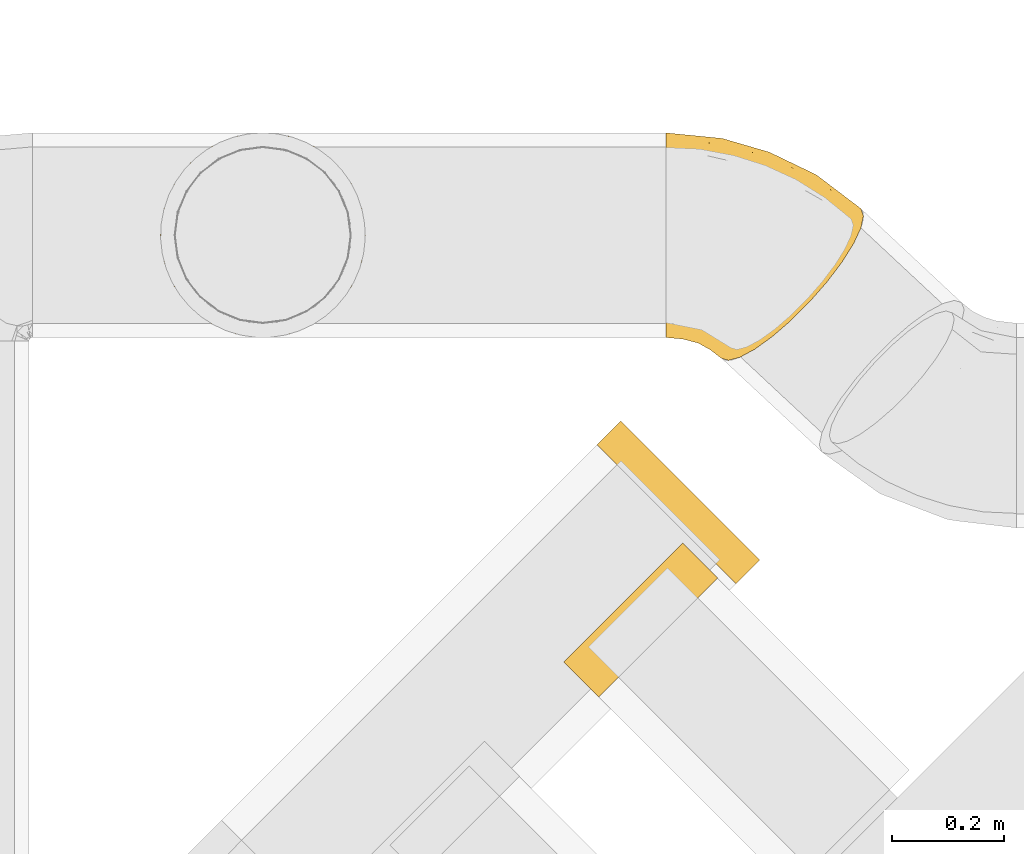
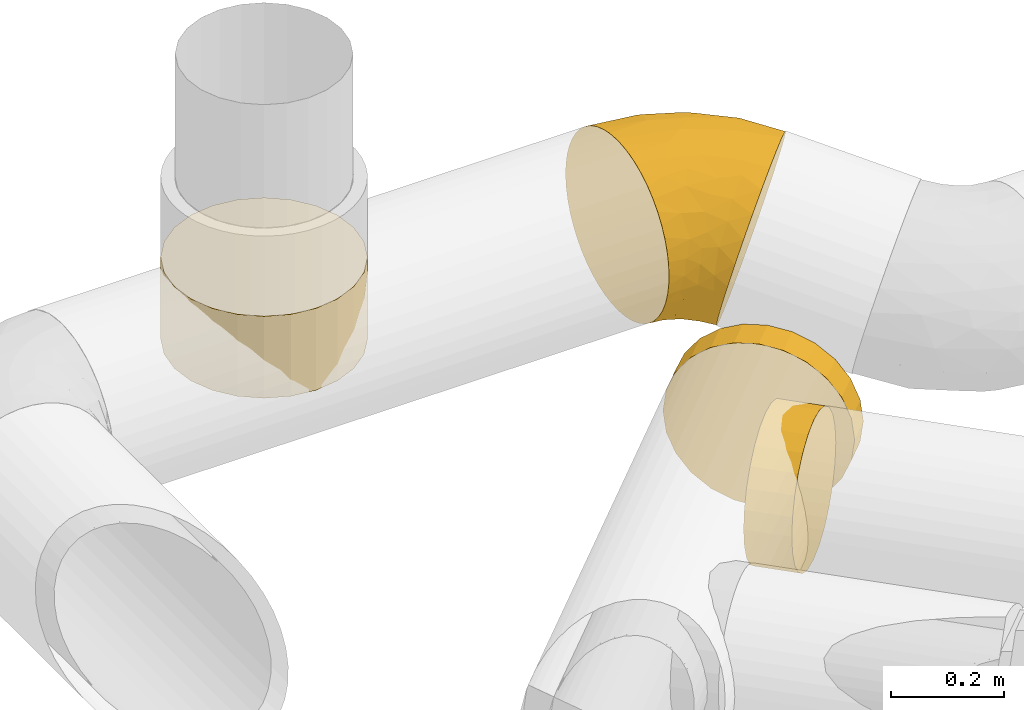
# One storey, part 4 of 12: 4 coverings.
"""IFC2X3 building model written with IfcOpenShell, lengths in millimetres."""

import ifcopenshell
import ifcopenshell.guid

model = None  # the IFC model being written
_history = None  # IfcOwnerHistory: only IFC2X3 demands one
_inside = {}  # id of a spatial element -> (the spatial element, [elements in it])
_under = {}  # id of a project, library or spatial element -> (it, [spatial elements below it])
_declared = {}  # id of a project -> (the project, [libraries it declares])
_typed = {}  # id of a type object -> (the type object, [elements of that type])
_made_of = {}  # id of a material, layer set ... -> (it, [elements and type objects made of it])


def new_model(schema):
    """Start an empty IFC model of exactly this schema.

    Asked for "IFC4X3", IfcOpenShell would pick the latest addendum, in which some entities
    have other attributes; the version numbers below select the first issue.
    IFC2X3 requires an IfcOwnerHistory on every rooted entity: one is made here for all.
    """
    global model, _history
    if schema == "IFC4X3":
        model = ifcopenshell.file(schema_version=(4, 3, 0, 0))
    else:
        model = ifcopenshell.file(schema=schema)
    _inside.clear()
    _under.clear()
    _declared.clear()
    _typed.clear()
    _made_of.clear()
    _history = None
    if model.schema == "IFC2X3":
        org = make("IfcOrganization", Name="unknown")
        user = make(
            "IfcPersonAndOrganization",
            ThePerson=make("IfcPerson", FamilyName="unknown"),
            TheOrganization=org,
        )
        app = make(
            "IfcApplication",
            ApplicationDeveloper=org,
            Version="unknown",
            ApplicationFullName="unknown",
            ApplicationIdentifier="unknown",
        )
        _history = make(
            "IfcOwnerHistory",
            OwningUser=user,
            OwningApplication=app,
            ChangeAction="ADDED",
            CreationDate=0,
        )
    return model


def make(cls, **values):
    """One entity of the class cls with the attributes given. An attribute that is None is left unset."""
    return model.create_entity(
        cls, **{name: value for name, value in values.items() if value is not None}
    )


def entity(cls, *values):
    """Any entity or typed value of the class cls, its attributes in the order of the schema. None: left unset."""
    e = model.create_entity(cls)
    for i, value in enumerate(values):
        if value is not None:
            e[i] = value
    return e


def rooted(cls, **values):
    """An entity with a GlobalId (a new one), such as an element, a storey or a relation."""
    return make(cls, GlobalId=ifcopenshell.guid.new(), OwnerHistory=_history, **values)


def si_unit(unit_type, name, prefix=None):
    """IfcSIUnit, for example si_unit("LENGTHUNIT", "METRE", prefix="MILLI")."""
    return make("IfcSIUnit", UnitType=unit_type, Prefix=prefix, Name=name)


def converted_unit(unit_type, name, factor, base, dimensions=None, offset=None):
    """IfcConversionBasedUnit, such as the inch: factor (a typed value) times the base unit."""
    return make(
        "IfcConversionBasedUnit"
        if offset is None
        else "IfcConversionBasedUnitWithOffset",
        ConversionOffset=offset,
        Dimensions=None
        if dimensions is None
        else entity("IfcDimensionalExponents", *dimensions),
        UnitType=unit_type,
        Name=name,
        ConversionFactor=make(
            "IfcMeasureWithUnit", ValueComponent=factor, UnitComponent=base
        ),
    )


def derived_unit(unit_type, elements):
    """IfcDerivedUnit: a product of units, each with its exponent."""
    return make(
        "IfcDerivedUnit",
        Elements=[
            make("IfcDerivedUnitElement", Unit=unit, Exponent=power)
            for unit, power in elements
        ],
        UnitType=unit_type,
    )


def assignment(units):
    """IfcUnitAssignment: the units of a project."""
    return None if units is None else make("IfcUnitAssignment", Units=units)


def point(xyz):
    """IfcCartesianPoint."""
    return None if xyz is None else make("IfcCartesianPoint", Coordinates=xyz)


def direction(xyz):
    """IfcDirection."""
    return None if xyz is None else make("IfcDirection", DirectionRatios=xyz)


def frame(location, z_axis=None, x_axis=None):
    """IfcAxis2Placement3D, a coordinate frame: its origin and axes. An axis left out is left unset."""
    return make(
        "IfcAxis2Placement3D",
        Location=point(location),
        Axis=direction(z_axis),
        RefDirection=direction(x_axis),
    )


def origin_with_axes():
    """The frame at (0, 0, 0) with the z axis (0, 0, 1) and the x axis (1, 0, 0) written out."""
    return frame((0.0, 0.0, 0.0), z_axis=(0.0, 0.0, 1.0), x_axis=(1.0, 0.0, 0.0))


def place(relative_to, where):
    """IfcLocalPlacement: puts the frame where relative to a parent placement (None: the world)."""
    return make(
        "IfcLocalPlacement", PlacementRelTo=relative_to, RelativePlacement=where
    )


def context(
    kind, dimensions, precision=None, world=None, true_north=None, identifier=None
):
    """IfcGeometricRepresentationContext, for example the 3D "Model" context."""
    return make(
        "IfcGeometricRepresentationContext",
        ContextIdentifier=identifier,
        ContextType=kind,
        CoordinateSpaceDimension=dimensions,
        Precision=precision,
        WorldCoordinateSystem=world,
        TrueNorth=true_north,
    )


def subcontext(parent, identifier, kind, view, scale=None):
    """IfcGeometricRepresentationSubContext, for example "Body" below "Model"."""
    return make(
        "IfcGeometricRepresentationSubContext",
        ContextIdentifier=identifier,
        ContextType=kind,
        ParentContext=parent,
        TargetScale=scale,
        TargetView=view,
    )


def project(units=None, contexts=None):
    """IfcProject with its units and contexts."""
    return rooted(
        "IfcProject",
        Name="project",
        RepresentationContexts=contexts,
        UnitsInContext=assignment(units),
    )


def spatial(cls, under=None, at=None, **own):
    """A site, building, storey or space (cls), placed at a placement, below another one or the project."""
    s = rooted(cls, ObjectPlacement=at, **own)
    if under is not None:
        _under.setdefault(under.id(), (under, []))[1].append(s)
    return s


def faces_of(points, faces, orient=None, outer=None):
    """IfcFace entities. A face is a list of loops; a loop is a list of indices into points, from 0.

    orient and outer hold one flag for each loop. By default every Orientation is true, the
    first loop of a face is its IfcFaceOuterBound and the others are IfcFaceBound.
    """
    made = []
    for i, loops in enumerate(faces):
        bounds = []
        for j, loop in enumerate(loops):
            is_outer = j == 0 if outer is None else outer[i][j]
            bounds.append(
                make(
                    "IfcFaceOuterBound" if is_outer else "IfcFaceBound",
                    Bound=make("IfcPolyLoop", Polygon=[points[k] for k in loop]),
                    Orientation=True if orient is None else orient[i][j],
                )
            )
        made.append(make("IfcFace", Bounds=bounds))
    return made


def open_shell(faces, orient=None, outer=None):
    """The faces of one IfcOpenShell. surface_model builds it on its shared points."""
    return ("IfcOpenShell", faces, orient, outer)


def surface_model(cls, points, shells):
    """IfcFaceBasedSurfaceModel or IfcShellBasedSurfaceModel (cls): surfaces that need not close."""
    shared = [point(p) for p in points]
    made = [make(c, CfsFaces=faces_of(shared, fs, o, b)) for c, fs, o, b in shells]
    if cls == "IfcFaceBasedSurfaceModel":
        return make(cls, FbsmFaces=made)
    return make(cls, SbsmBoundary=made)


def shape(context_of_items, identifier, shape_type, items):
    """IfcShapeRepresentation: the items that make up one representation, for example the "Body"."""
    return make(
        "IfcShapeRepresentation",
        ContextOfItems=context_of_items,
        RepresentationIdentifier=identifier,
        RepresentationType=shape_type,
        Items=items,
    )


def source(mapping_origin, context_of_items, identifier, shape_type, items):
    """IfcRepresentationMap: a shape defined once, which mapped items show again and again."""
    return make(
        "IfcRepresentationMap",
        MappingOrigin=mapping_origin,
        MappedRepresentation=shape(context_of_items, identifier, shape_type, items),
    )


def transform(
    local_origin,
    x_axis=None,
    y_axis=None,
    z_axis=None,
    scale=None,
    scale2=None,
    scale3=None,
    uniform=True,
):
    """IfcCartesianTransformationOperator3D, or its non-uniform kind. x_axis, y_axis, z_axis: its Axis1, 2, 3."""
    if uniform:
        return make(
            "IfcCartesianTransformationOperator3D",
            Axis1=direction(x_axis),
            Axis2=direction(y_axis),
            LocalOrigin=point(local_origin),
            Scale=scale,
            Axis3=direction(z_axis),
        )
    return make(
        "IfcCartesianTransformationOperator3DnonUniform",
        Axis1=direction(x_axis),
        Axis2=direction(y_axis),
        LocalOrigin=point(local_origin),
        Scale=scale,
        Axis3=direction(z_axis),
        Scale2=scale2,
        Scale3=scale3,
    )


def mapped(mapping_source, mapping_target):
    """IfcMappedItem: shows the shape of a source again, moved by a transform."""
    return make(
        "IfcMappedItem", MappingSource=mapping_source, MappingTarget=mapping_target
    )


def made_of(thing, what):
    """Note that an element or type object is made of a material, layer set ...; save() writes the relation."""
    if what is not None:
        _made_of.setdefault(what.id(), (what, []))[1].append(thing)
    return thing


def element(
    cls,
    number,
    at=None,
    inside=None,
    cuts=None,
    type_object=None,
    material=None,
    context=None,
    identifier="Body",
    shape_type=None,
    held_by="IfcProductDefinitionShape",
    body=None,
    shapes=None,
    **own,
):
    """One element of the class cls, such as IfcWall. Its Tag is "e" and its number.

    at: its placement. inside: the storey or other place that contains it. cuts: it is an
    opening in that element (IfcRelVoidsElement). A single representation is given by context,
    identifier, shape_type and body (its items); several are given by shapes. held_by: the class
    of the entity that holds the representations. save() writes the other relations.
    """
    e = rooted(cls, Tag="e%d" % number, ObjectPlacement=at, **own)
    if body is not None:
        shapes = [shape(context, identifier, shape_type, body)]
    if shapes is not None:
        e.Representation = make(held_by, Representations=shapes)
    if inside is not None:
        _inside.setdefault(inside.id(), (inside, []))[1].append(e)
    if cuts is not None:
        rooted(
            "IfcRelVoidsElement", RelatingBuildingElement=cuts, RelatedOpeningElement=e
        )
    if type_object is not None:
        _typed.setdefault(type_object.id(), (type_object, []))[1].append(e)
    return made_of(e, material)


def aggregate(whole, parts):
    """IfcRelAggregates: a whole, such as a stair, and the parts it consists of."""
    return rooted("IfcRelAggregates", RelatingObject=whole, RelatedObjects=parts)


def save(model, path):
    """Write the relations noted so far, then the file.

    IfcRelAggregates (storeys below a building ...), IfcRelContainedInSpatialStructure (elements
    in a storey), IfcRelDefinesByType, IfcRelAssociatesMaterial and IfcRelDeclares: one each for
    every whole, place, type object, material and project.
    """
    for whole, parts in _under.values():
        aggregate(whole, parts)
    for where, things in _inside.values():
        rooted(
            "IfcRelContainedInSpatialStructure",
            RelatedElements=things,
            RelatingStructure=where,
        )
    for kind, things in _typed.values():
        rooted("IfcRelDefinesByType", RelatedObjects=things, RelatingType=kind)
    for what, things in _made_of.values():
        rooted("IfcRelAssociatesMaterial", RelatedObjects=things, RelatingMaterial=what)
    for by, libraries in _declared.values():
        rooted("IfcRelDeclares", RelatingContext=by, RelatedDefinitions=libraries)
    model.write(path)


model = new_model("IFC2X3")

# Units and contexts
model_context = context("Model", 3, precision=0.01, world=frame((0.0, 4.29681676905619e-09, 0.0)), true_north=direction((4.01073788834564e-13, 1.0)))
plan_context = context("Plan", 3, precision=0.01, world=frame((0.0, 4.29681676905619e-09, 0.0)), true_north=direction((4.01073788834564e-13, 1.0)))
body_context = subcontext(model_context, "Body", "Model", "MODEL_VIEW")
ifc_project = project(units=[converted_unit("PLANEANGLEUNIT", "DEGREE", entity("IfcPositiveLengthMeasure", 0.0174532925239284), si_unit("PLANEANGLEUNIT", "RADIAN"), dimensions=[0, 0, 0, 0, 0, 0, 0]), si_unit("AREAUNIT", "SQUARE_METRE"), si_unit("LENGTHUNIT", "METRE", prefix="MILLI"), si_unit("MASSUNIT", "GRAM", prefix="KILO"), si_unit("POWERUNIT", "WATT"), si_unit("PRESSUREUNIT", "PASCAL", prefix="KILO"), si_unit("FORCEUNIT", "NEWTON", prefix="KILO"), si_unit("ELECTRICVOLTAGEUNIT", "VOLT"), si_unit("ELECTRICCURRENTUNIT", "AMPERE"), si_unit("THERMODYNAMICTEMPERATUREUNIT", "DEGREE_CELSIUS"), si_unit("TIMEUNIT", "SECOND"), si_unit("VOLUMEUNIT", "CUBIC_METRE"), derived_unit("LINEARVELOCITYUNIT", [(si_unit("LENGTHUNIT", "METRE"), 1), (si_unit("TIMEUNIT", "SECOND"), -1)]), derived_unit("VOLUMETRICFLOWRATEUNIT", [(si_unit("VOLUMEUNIT", "CUBIC_METRE"), 1), (si_unit("TIMEUNIT", "SECOND"), -1)]), derived_unit("THERMALTRANSMITTANCEUNIT", [(si_unit("POWERUNIT", "WATT"), 1), (si_unit("THERMODYNAMICTEMPERATUREUNIT", "KELVIN"), -1), (si_unit("AREAUNIT", "SQUARE_METRE"), -1)]), derived_unit("SOUNDPRESSUREUNIT", [(si_unit("PRESSUREUNIT", "PASCAL"), 1)])], contexts=[model_context, plan_context])

# Site, building, storey
site_placement = place(None, frame((0.0, -4.29681676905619e-09, 0.0), z_axis=(0.0, 0.0, 1.0), x_axis=(1.0, 0.0, 0.0)))
site = spatial("IfcSite", under=ifc_project, at=site_placement, CompositionType="ELEMENT")
building_placement = place(site_placement, frame((0.0, 4.29681676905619e-09, 0.0), z_axis=(0.0, 0.0, 1.0), x_axis=(1.0, 0.0, 0.0)))
building = spatial("IfcBuilding", under=site, at=building_placement, Name="mc-building", CompositionType="ELEMENT")
storey_placement = place(building_placement, frame((0.0, 0.0, 204000.0), z_axis=(0.0, 0.0, 1.0), x_axis=(1.0, 0.0, 0.0)))
storey = spatial("IfcBuildingStorey", under=building, at=storey_placement, Name="Nivå D", CompositionType="ELEMENT", Elevation=204000.0)

# Coverings
shared_shape_1 = source(origin_with_axes(), body_context, "Body", "SurfaceModel", [
    surface_model("IfcShellBasedSurfaceModel", [(25.0, 91.25, 158.04964), (25.0, 158.04964, 91.25), (25.0, 129.04698, 129.04698), (-151.404, -176.28146, -47.23448), (-151.404, -47.23448, -176.28146), (-151.404, -91.25, -158.04964), (-151.404, -158.04964, -91.25), (-151.404, -129.04698, -129.04698), (-151.404, 0.0, -182.5), (-151.404, -182.5, 0.0), (-151.404, 47.23448, -176.28146), (-151.404, 176.28146, -47.23448), (-151.404, 91.25, -158.04964), (-151.404, 129.04698, -129.04698), (-151.404, 158.04964, -91.25), (-151.404, -158.04964, 91.25), (-151.404, -129.04698, 129.04698), (-151.404, 158.04964, 91.25), (-151.404, -47.23448, 176.28146), (-151.404, 0.0, 182.5), (-151.404, -91.25, 158.04964), (-151.404, 176.28146, 47.23448), (-151.404, 182.5, 0.0), (-151.404, 91.25, 158.04964), (-151.404, 129.04698, 129.04698), (-151.404, 47.23448, 176.28146), (-151.404, -176.28146, 47.23448), (25.0, -129.04698, 129.04698), (25.0, 0.0, 182.5), (25.0, -47.23448, 176.28146), (25.0, -91.25, 158.04964), (25.0, -176.28146, -47.23448), (25.0, -158.04964, 91.25), (25.0, 47.23448, 176.28146), (25.0, 176.28146, 47.23448), (25.0, 176.28146, -47.23448), (25.0, 182.5, 0.0), (25.0, -176.28146, 47.23448), (25.0, -182.5, 0.0), (25.0, -47.23448, -176.28146), (25.0, -158.04964, -91.25), (25.0, -91.25, -158.04964), (25.0, -129.04698, -129.04698), (25.0, 91.25, -158.04964), (25.0, 129.04698, -129.04698), (25.0, 158.04964, -91.25), (25.0, 47.23448, -176.28146), (25.0, 0.0, -182.5)], [open_shell([[[0, 1, 2]], [[3, 4, 5]], [[6, 5, 7]], [[4, 3, 8]], [[3, 5, 6]], [[8, 3, 9]], [[10, 11, 12]], [[11, 10, 8]], [[13, 11, 14]], [[11, 13, 12]], [[8, 9, 11]], [[9, 15, 11]], [[11, 15, 16]], [[11, 16, 17]], [[18, 19, 16]], [[18, 16, 20]], [[19, 17, 16]], [[11, 21, 22]], [[17, 21, 11]], [[17, 23, 24]], [[17, 19, 23]], [[25, 23, 19]], [[15, 9, 26]], [[27, 28, 29]], [[27, 29, 30]], [[27, 31, 1]], [[27, 1, 28]], [[32, 31, 27]], [[0, 33, 28]], [[34, 35, 36]], [[0, 28, 1]], [[34, 1, 35]], [[32, 37, 38]], [[31, 39, 1]], [[39, 31, 40]], [[41, 39, 40]], [[41, 40, 42]], [[1, 39, 43]], [[35, 44, 45]], [[44, 35, 43]], [[43, 35, 1]], [[39, 46, 43]], [[39, 47, 46]], [[31, 32, 38]], [[32, 27, 15]], [[9, 38, 26]], [[37, 15, 26]], [[15, 37, 32]], [[38, 37, 26]], [[27, 16, 15]], [[20, 30, 29]], [[18, 29, 28]], [[16, 30, 20]], [[20, 29, 18]], [[28, 19, 18]], [[30, 16, 27]], [[25, 33, 0]], [[23, 0, 2]], [[28, 33, 19]], [[19, 33, 25]], [[0, 23, 25]], [[2, 24, 23]], [[17, 1, 34]], [[21, 34, 36]], [[24, 1, 17]], [[17, 34, 21]], [[36, 22, 21]], [[1, 24, 2]], [[11, 35, 45]], [[14, 45, 44]], [[36, 35, 22]], [[22, 35, 11]], [[45, 14, 11]], [[44, 13, 14]], [[12, 43, 46]], [[10, 46, 47]], [[13, 43, 12]], [[12, 46, 10]], [[47, 8, 10]], [[43, 13, 44]], [[4, 39, 41]], [[5, 41, 42]], [[47, 39, 8]], [[8, 39, 4]], [[41, 5, 4]], [[42, 7, 5]], [[6, 40, 31]], [[3, 31, 38]], [[7, 40, 6]], [[6, 31, 3]], [[38, 9, 3]], [[40, 7, 42]]])]),
])
covering_1_placement = place(storey_placement, frame((597332.0, 404386.04214, 2957.5), z_axis=(1.0, 0.0, 0.0), x_axis=(0.0, 0.0, 1.0)))
element("IfcCovering", 1, at=covering_1_placement, inside=storey, Name="T=25mm", PredefinedType="INSULATION", context=body_context, shape_type="MappedRepresentation", body=[
    mapped(shared_shape_1, transform((0.0, 0.0, 0.0), scale=1.0)),
])
shared_shape_2 = source(origin_with_axes(), body_context, "Body", "SurfaceModel", [
    surface_model("IfcShellBasedSurfaceModel", [(20.0, 0.0, 150.0), (20.0, -38.82286, 144.88888), (20.0, -75.0, 129.90381), (20.0, -106.06602, 106.06602), (20.0, -129.90381, 75.0), (20.0, -144.88888, 38.82286), (20.0, 38.82286, 144.88888), (20.0, 106.06602, 106.06602), (20.0, 75.0, 129.90381), (20.0, 129.90381, -75.0), (20.0, 75.0, -129.90381), (20.0, 106.06602, -106.06602), (20.0, 144.88888, -38.82286), (20.0, 0.0, -150.0), (20.0, 38.82286, -144.88888), (-68.06252, -38.82286, -144.88888), (-68.06252, 144.88888, 38.82286), (-68.06252, 144.88888, -38.82286), (-68.06252, -106.06602, -106.06602), (-68.06252, 106.06602, 106.06602), (-68.06252, -75.0, -129.90381), (-68.06252, -129.90381, -75.0), (-68.06252, -144.88888, -38.82286), (-68.06252, 0.0, -150.0), (-68.06252, 75.0, -129.90381), (-68.06252, 38.82286, -144.88888), (-68.06252, 129.90381, -75.0), (-68.06252, 106.06602, -106.06602), (-68.06252, -150.0, 0.0), (-68.06252, -144.88888, 38.82286), (-68.06252, -129.90381, 75.0), (-68.06252, -106.06602, 106.06602), (-68.06252, 0.0, 150.0), (-68.06252, -75.0, 129.90381), (-68.06252, -38.82286, 144.88888), (-68.06252, 38.82286, 144.88888), (-68.06252, 129.90381, 75.0), (-68.06252, 150.0, 0.0), (-68.06252, 75.0, 129.90381), (20.0, 129.90381, 75.0), (20.0, 144.88888, 38.82286), (20.0, 150.0, 0.0), (20.0, -75.0, -129.90381), (20.0, -150.0, 0.0), (20.0, -144.88888, -38.82286), (20.0, -129.90381, -75.0), (20.0, -106.06602, -106.06602), (20.0, -38.82286, -144.88888)], [open_shell([[[0, 1, 2]], [[0, 2, 3]], [[3, 4, 5]], [[3, 5, 0]], [[6, 7, 8]], [[9, 10, 11]], [[10, 9, 12]], [[10, 13, 14]], [[15, 16, 17]], [[18, 19, 20]], [[18, 21, 19]], [[20, 19, 15]], [[21, 22, 19]], [[23, 24, 25]], [[24, 23, 17]], [[24, 26, 27]], [[26, 24, 17]], [[23, 15, 17]], [[22, 28, 29]], [[29, 30, 31]], [[29, 31, 32]], [[33, 34, 32]], [[33, 32, 31]], [[29, 32, 35]], [[15, 36, 16]], [[16, 37, 17]], [[19, 35, 38]], [[19, 36, 15]], [[35, 19, 22]], [[22, 29, 35]], [[0, 5, 6]], [[6, 5, 7]], [[39, 12, 40]], [[41, 40, 12]], [[42, 39, 7]], [[7, 5, 43]], [[44, 45, 7]], [[45, 46, 7]], [[47, 39, 42]], [[7, 46, 42]], [[12, 39, 47]], [[13, 10, 12]], [[12, 47, 13]], [[44, 7, 43]], [[29, 43, 5]], [[30, 5, 4]], [[28, 43, 29]], [[30, 3, 31]], [[30, 29, 5]], [[3, 30, 4]], [[33, 2, 1]], [[34, 1, 0]], [[31, 2, 33]], [[33, 1, 34]], [[0, 32, 34]], [[2, 31, 3]], [[0, 6, 35]], [[32, 0, 35]], [[8, 38, 35]], [[38, 8, 7]], [[6, 8, 35]], [[7, 19, 38]], [[36, 39, 40]], [[16, 40, 41]], [[19, 39, 36]], [[36, 40, 16]], [[41, 37, 16]], [[39, 19, 7]], [[9, 11, 26]], [[37, 12, 17]], [[12, 37, 41]], [[17, 12, 9]], [[9, 26, 17]], [[11, 27, 26]], [[24, 10, 14]], [[25, 14, 13]], [[27, 10, 24]], [[24, 14, 25]], [[13, 23, 25]], [[10, 27, 11]], [[15, 47, 42]], [[20, 42, 46]], [[13, 47, 23]], [[23, 47, 15]], [[42, 20, 15]], [[46, 18, 20]], [[21, 45, 44]], [[22, 44, 43]], [[18, 45, 21]], [[21, 44, 22]], [[43, 28, 22]], [[45, 18, 46]]])]),
])
covering_2_placement = place(storey_placement, frame((598022.69572, 403682.63143, 2670.01574999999), z_axis=(-2.0999999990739e-05, 2.0999999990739e-05, -0.999999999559), x_axis=(0.707106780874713, -0.707106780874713, -2.9698484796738e-05)))
element("IfcCovering", 2, at=covering_2_placement, inside=storey, Name="EI30-50", PredefinedType="INSULATION", context=body_context, shape_type="MappedRepresentation", body=[
    mapped(shared_shape_2, transform((0.0, 0.0, 0.0), scale=1.0)),
])
shared_shape_3 = source(origin_with_axes(), body_context, "Body", "SurfaceModel", [
    surface_model("IfcShellBasedSurfaceModel", [(60.0, 169.03701, -45.29333), (60.0, 45.29333, -169.03701), (60.0, 87.5, -151.55445), (60.0, 151.55445, -87.5), (60.0, 123.74368, -123.74368), (60.0, -45.29333, -169.03701), (60.0, 169.03701, 45.29333), (60.0, -123.74368, -123.74368), (60.0, -87.5, -151.55445), (60.0, 0.0, -175.0), (60.0, -151.55445, -87.5), (60.0, -175.0, 0.0), (60.0, -169.03701, -45.29333), (60.0, 45.29333, 169.03701), (60.0, 175.0, 0.0), (60.0, 151.55445, 87.5), (60.0, 123.74368, 123.74368), (60.0, 87.5, 151.55445), (60.0, 0.0, 175.0), (60.0, -151.55445, 87.5), (60.0, -169.03701, 45.29333), (60.0, -45.29333, 169.03701), (60.0, -123.74368, 123.74368), (60.0, -87.5, 151.55445), (0.0, 45.29333, 169.03701), (0.0, -45.29333, 169.03701), (0.0, 0.0, 175.0), (0.0, 123.74368, 123.74368), (0.0, 87.5, 151.55445), (0.0, 151.55445, 87.5), (0.0, 169.03701, 45.29333), (0.0, -123.74368, -123.74368), (0.0, -123.74368, 123.74368), (0.0, -87.5, 151.55445), (0.0, -151.55445, 87.5), (0.0, -169.03701, 45.29333), (0.0, -175.0, 0.0), (0.0, 169.03701, -45.29333), (0.0, -45.29333, -169.03701), (0.0, 45.29333, -169.03701), (0.0, 151.55445, -87.5), (0.0, 87.5, -151.55445), (0.0, 123.74368, -123.74368), (0.0, -151.55445, -87.5), (0.0, -169.03701, -45.29333), (0.0, -87.5, -151.55445), (0.0, 0.0, -175.0), (0.0, 175.0, 0.0)], [open_shell([[[0, 1, 2]], [[3, 2, 4]], [[1, 0, 5]], [[0, 2, 3]], [[0, 6, 5]], [[5, 7, 8]], [[5, 9, 1]], [[10, 11, 12]], [[7, 5, 13]], [[10, 7, 11]], [[6, 0, 14]], [[6, 15, 16]], [[6, 16, 17]], [[13, 11, 7]], [[13, 6, 17]], [[11, 13, 18]], [[11, 19, 20]], [[19, 11, 21]], [[22, 21, 23]], [[21, 22, 19]], [[11, 18, 21]], [[13, 5, 6]], [[24, 25, 26]], [[27, 24, 28]], [[27, 29, 30]], [[27, 30, 24]], [[24, 31, 25]], [[25, 32, 33]], [[32, 25, 34]], [[34, 31, 35]], [[36, 35, 31]], [[25, 31, 34]], [[24, 30, 37]], [[38, 24, 37]], [[39, 37, 40]], [[41, 39, 40]], [[41, 40, 42]], [[38, 37, 39]], [[36, 43, 44]], [[31, 43, 36]], [[31, 38, 45]], [[38, 31, 24]], [[39, 46, 38]], [[47, 37, 30]], [[6, 47, 30]], [[15, 30, 29]], [[14, 47, 6]], [[15, 6, 30]], [[16, 15, 29]], [[29, 27, 16]], [[24, 26, 13]], [[17, 16, 28]], [[17, 28, 13]], [[13, 28, 24]], [[26, 18, 13]], [[28, 16, 27]], [[21, 26, 25]], [[23, 25, 33]], [[18, 26, 21]], [[23, 21, 25]], [[22, 23, 33]], [[33, 32, 22]], [[19, 32, 34]], [[20, 34, 35]], [[19, 34, 20]], [[36, 11, 20]], [[35, 36, 20]], [[32, 19, 22]], [[12, 36, 44]], [[10, 44, 43]], [[11, 36, 12]], [[10, 12, 44]], [[7, 10, 43]], [[43, 31, 7]], [[8, 31, 45]], [[5, 45, 38]], [[8, 45, 5]], [[9, 5, 38]], [[46, 9, 38]], [[31, 8, 7]], [[1, 46, 39]], [[2, 39, 41]], [[9, 46, 1]], [[2, 1, 39]], [[4, 2, 41]], [[41, 42, 4]], [[3, 42, 40]], [[0, 40, 37]], [[3, 40, 0]], [[14, 0, 37]], [[47, 14, 37]], [[42, 3, 4]]])]),
])
covering_3_placement = place(storey_placement, frame((598051.76233, 403888.47474, 2670.0), z_axis=(0.0, 0.0, 1.0), x_axis=(0.707106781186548, 0.707106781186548, 0.0)))
element("IfcCovering", 3, at=covering_3_placement, inside=storey, Name="EI30-50", PredefinedType="INSULATION", context=body_context, shape_type="MappedRepresentation", body=[
    mapped(shared_shape_3, transform((0.0, 0.0, 0.0), scale=1.0)),
])
shared_shape_4 = source(origin_with_axes(), body_context, "Body", "SurfaceModel", [
    surface_model("IfcShellBasedSurfaceModel", [(42.87968, 141.64304, 168.60946), (58.86437, 125.65835, 176.28254), (75.42051, 109.10222, 180.93928), (211.48626, -26.96353, 69.83624), (194.64252, -10.11979, 111.09658), (204.02052, -19.4978, 91.24706), (216.91194, -32.38921, 47.23048), (220.20475, -35.68202, 23.81657), (-130.47727, 176.28146, 47.23448), (-130.47727, 129.04698, 129.04698), (-130.47727, 158.04964, 91.25), (-130.47727, 47.23448, 176.28146), (-130.47727, 91.25, 158.04964), (23.25868, -158.15061, 0.0), (95.383, -128.27575, 0.0), (-3.17124, -157.50585, 53.9118), (-52.65112, -176.37495, 0.0), (-130.47727, -176.28146, 47.23448), (-130.47727, -182.5, 0.0), (104.29737, -32.94358, 149.44977), (183.51267, 1.01006, 129.04515), (170.82142, 13.70131, 144.78565), (-9.93199, 23.97795, 182.5), (-69.02382, 6.05264, 182.5), (-24.56403, -20.54224, 178.73867), (114.35694, -68.16287, 117.42434), (116.66798, -106.5569, 56.1035), (49.40386, -119.26985, 96.25786), (125.6618, 58.86092, 176.28123), (109.10569, 75.41703, 180.93863), (51.14654, 16.98607, 179.30532), (-130.47727, -158.04964, 91.25), (-45.73677, -138.77969, 108.66266), (-130.47727, -129.04698, 129.04698), (-46.50264, -64.55271, 166.94295), (42.68669, -23.91785, 170.30503), (31.4936, -76.03327, 146.9283), (-130.47727, -47.23448, 176.28146), (-130.47727, 0.0, 182.5), (125.67947, -84.7872, 88.12772), (161.94589, -87.48596, 0.0), (-44.62794, -112.3015, 136.76218), (156.78594, 27.73678, 158.04875), (141.64639, 42.87634, 168.6075), (29.82213, -104.48164, 123.82414), (221.30835, -36.78562, 0.0), (-130.47727, -91.25, 158.04964), (44.52735, 53.08707, 182.5), (92.26137, 92.26137, 182.5), (-51.76098, 55.50714, 177.15846), (-90.04335, 34.13658, 179.80614), (-11.0109, 137.91955, 151.74498), (13.70422, 170.81852, 144.78881), (1.01266, 183.51006, 129.04883), (-101.80563, 174.45483, 62.23653), (-110.02967, 181.81198, 28.55947), (-86.73142, 80.19168, 165.85298), (-48.17835, 87.92988, 167.05556), (-48.73159, 117.64918, 151.74499), (-80.05974, 188.08981, 38.2721), (-53.07063, 195.73157, 58.66376), (-52.30164, 205.4942, 27.25871), (5.37573, 60.83692, 180.52038), (-93.37442, 114.50308, 144.78699), (-130.47727, 182.5, 0.0), (-32.38829, 216.91102, 47.23535), (-35.68157, 220.20429, 23.82149), (-93.55992, 148.8387, 111.09895), (-72.56898, 175.19728, 80.71907), (-41.7964, 160.90497, 120.33241), (-66.14065, 140.24568, 129.31445), (-96.18375, 187.01482, 0.0), (-2.61605, 92.82385, 172.81601), (36.54973, 91.02124, 178.99416), (-26.96214, 211.48487, 69.84097), (27.73994, 156.78278, 158.05133), (-46.73971, 182.01861, 91.59439), (-10.11755, 194.64028, 111.1007), (-19.49598, 204.01871, 91.25153), (-64.22727, 200.25164, 0.0), (-36.78562, 221.30835, 0.0), (-66.00878, 160.7992, 106.96805), (-75.78144, 177.81349, -72.89014), (-101.61909, 182.21751, -34.97254), (-78.84671, 190.35281, -29.60433), (-39.17356, 179.664, -101.38891), (-10.11979, 194.64252, -111.09658), (1.01006, 183.51267, -129.04515), (-86.25336, 115.95256, -144.78699), (-66.32564, 140.74819, -128.77897), (-50.23367, 123.06705, -147.86509), (-130.47727, 158.04964, -91.25), (-99.50447, 147.6287, -111.09895), (-130.47727, 129.04698, -129.04698), (-33.37838, 146.27752, -137.20918), (-68.00209, 164.17212, -101.3889), (-85.81435, 79.53552, -166.22445), (-51.06764, 53.22151, -177.73237), (-90.7131, 33.60783, -179.88014), (-98.72692, 172.09258, -69.83972), (-130.47727, 0.0, -182.5), (-130.47727, 47.23448, -176.28146), (-130.47727, 91.25, -158.04964), (38.60193, 88.20704, -179.65175), (58.86092, 125.6618, -176.28123), (75.41703, 109.10569, -180.93863), (-40.8217, 98.55271, -163.6786), (9.0736, 99.97949, -172.8144), (4.38699, 62.68671, -180.19643), (-9.93199, 23.97795, -182.5), (-69.02382, 6.05264, -182.5), (-59.55684, 191.76617, -58.65895), (-32.38921, 216.91194, -47.23048), (-26.96353, 211.48626, -69.83624), (42.87634, 141.64639, -168.6075), (-19.4978, 204.02052, -91.24706), (-11.4351, 125.95231, -157.8503), (13.70131, 170.82142, -144.78565), (27.73678, 156.78594, -158.04875), (-52.70337, 204.71352, -29.81211), (-35.68202, 220.20475, -23.81657), (-130.47727, 176.28146, -47.23448), (44.52735, 53.08707, -182.5), (92.26137, 92.26137, -182.5), (-24.56493, -20.54007, -178.73914), (125.65835, 58.86437, -176.28254), (51.1506, 16.99078, -179.30568), (109.10222, 75.42051, -180.93928), (96.68999, -79.49785, -116.7992), (53.55373, -129.28931, -76.05893), (-26.82777, -135.26085, -108.10373), (183.51006, 1.01266, -129.04883), (104.2955, -32.93976, -149.45272), (-49.89033, -95.82183, -150.20877), (-46.50084, -64.54927, -166.94426), (31.49304, -76.02905, -146.93133), (141.64304, 42.87968, -168.60946), (42.684, -23.914, -170.30681), (121.42287, -87.20795, -88.54884), (194.64028, -10.11755, -111.1007), (204.01871, -19.49598, -91.25153), (-130.47727, -47.23448, -176.28146), (-130.47727, -176.28146, -47.23448), (211.48487, -26.96214, -69.84097), (-31.04076, -163.12467, -57.04574), (-130.47727, -158.04964, -91.25), (58.43204, -141.06746, -37.31783), (-130.47727, -91.25, -158.04964), (216.91102, -32.38829, -47.23535), (136.97918, -93.77843, -56.6023), (-130.47727, -129.04698, -129.04698), (156.78278, 27.73994, -158.05133), (170.81852, 13.70422, -144.78881), (220.20429, -35.68157, -23.82149)], [open_shell([[[0, 1, 2]], [[3, 4, 5]], [[3, 6, 7]], [[8, 9, 10]], [[9, 11, 12]], [[13, 14, 15]], [[16, 17, 18]], [[19, 20, 21]], [[22, 23, 24]], [[4, 20, 25]], [[26, 27, 15]], [[15, 14, 26]], [[13, 15, 16]], [[28, 29, 30]], [[31, 32, 33]], [[24, 34, 35]], [[34, 36, 35]], [[34, 24, 37]], [[38, 24, 23]], [[39, 27, 26]], [[24, 30, 22]], [[40, 26, 14]], [[38, 37, 24]], [[17, 15, 31]], [[30, 24, 35]], [[32, 41, 33]], [[19, 42, 43]], [[26, 6, 3]], [[44, 25, 36]], [[25, 39, 4]], [[27, 39, 25]], [[41, 44, 36]], [[19, 25, 20]], [[25, 44, 27]], [[6, 26, 7]], [[41, 36, 34]], [[39, 3, 5]], [[32, 44, 41]], [[40, 45, 7]], [[41, 46, 33]], [[44, 32, 27]], [[29, 47, 30]], [[48, 47, 29]], [[34, 46, 41]], [[37, 46, 34]], [[28, 30, 35]], [[43, 35, 19]], [[15, 17, 16]], [[35, 43, 28]], [[30, 47, 22]], [[36, 19, 35]], [[21, 42, 19]], [[15, 27, 32]], [[15, 32, 31]], [[40, 7, 26]], [[3, 39, 26]], [[25, 19, 36]], [[4, 39, 5]], [[23, 22, 49]], [[50, 38, 23]], [[51, 52, 53]], [[54, 55, 8]], [[56, 57, 58]], [[59, 60, 61]], [[22, 47, 62]], [[22, 62, 49]], [[56, 63, 12]], [[12, 63, 9]], [[64, 8, 55]], [[50, 23, 49]], [[61, 65, 66]], [[67, 54, 10]], [[59, 68, 60]], [[58, 69, 70]], [[67, 9, 63]], [[54, 68, 59]], [[63, 56, 58]], [[55, 59, 71]], [[72, 73, 0]], [[63, 58, 70]], [[65, 60, 74]], [[52, 51, 75]], [[51, 72, 0]], [[76, 77, 78]], [[51, 0, 75]], [[72, 62, 73]], [[10, 54, 8]], [[72, 51, 58]], [[2, 47, 48]], [[73, 2, 1]], [[53, 69, 51]], [[56, 11, 50]], [[58, 51, 69]], [[68, 76, 60]], [[60, 65, 61]], [[10, 9, 67]], [[79, 61, 80]], [[67, 70, 81]], [[68, 54, 67]], [[76, 68, 81]], [[59, 79, 71]], [[76, 74, 60]], [[56, 49, 57]], [[69, 53, 77]], [[73, 47, 2]], [[11, 56, 12]], [[49, 62, 72]], [[73, 1, 0]], [[47, 73, 62]], [[59, 55, 54]], [[64, 55, 71]], [[77, 76, 69]], [[74, 76, 78]], [[49, 72, 57]], [[72, 58, 57]], [[80, 61, 66]], [[59, 61, 79]], [[56, 50, 49]], [[38, 50, 11]], [[81, 70, 69]], [[63, 70, 67]], [[76, 81, 69]], [[67, 81, 68]], [[82, 83, 84]], [[83, 64, 71]], [[85, 86, 87]], [[88, 89, 90]], [[91, 92, 93]], [[71, 79, 84]], [[88, 93, 92]], [[94, 89, 95]], [[96, 97, 98]], [[92, 99, 95]], [[100, 101, 98]], [[96, 101, 102]], [[103, 104, 105]], [[96, 106, 97]], [[85, 95, 82]], [[107, 108, 106]], [[108, 97, 106]], [[84, 83, 71]], [[109, 110, 97]], [[99, 92, 91]], [[111, 112, 113]], [[88, 96, 102]], [[114, 104, 107]], [[86, 85, 115]], [[85, 111, 113]], [[116, 117, 118]], [[85, 113, 115]], [[112, 111, 119]], [[92, 95, 89]], [[110, 98, 97]], [[119, 80, 120]], [[119, 79, 80]], [[87, 94, 85]], [[121, 99, 91]], [[95, 85, 94]], [[106, 116, 107]], [[103, 122, 108]], [[102, 93, 88]], [[122, 103, 123]], [[82, 95, 99]], [[106, 96, 88]], [[106, 90, 116]], [[109, 108, 122]], [[116, 114, 107]], [[103, 108, 107]], [[94, 87, 117]], [[104, 103, 107]], [[97, 108, 109]], [[103, 105, 123]], [[117, 116, 94]], [[114, 116, 118]], [[119, 84, 79]], [[84, 111, 82]], [[99, 121, 83]], [[64, 83, 121]], [[112, 119, 120]], [[84, 119, 111]], [[100, 98, 110]], [[96, 98, 101]], [[82, 99, 83]], [[85, 82, 111]], [[90, 89, 94]], [[92, 89, 88]], [[116, 90, 94]], [[88, 90, 106]], [[124, 110, 109]], [[125, 126, 127]], [[128, 129, 130]], [[124, 100, 110]], [[131, 128, 132]], [[133, 134, 135]], [[125, 136, 137]], [[109, 122, 126]], [[138, 139, 140]], [[141, 124, 134]], [[16, 18, 142]], [[130, 133, 135]], [[143, 138, 140]], [[130, 144, 145]], [[14, 13, 146]], [[130, 135, 128]], [[147, 134, 133]], [[144, 16, 142]], [[143, 148, 149]], [[130, 145, 150]], [[139, 138, 128]], [[109, 126, 124]], [[127, 126, 122]], [[124, 126, 137]], [[125, 137, 126]], [[145, 144, 142]], [[144, 146, 13]], [[132, 136, 151]], [[152, 132, 151]], [[135, 134, 137]], [[139, 128, 131]], [[13, 16, 144]], [[149, 146, 129]], [[132, 137, 136]], [[147, 141, 134]], [[132, 128, 135]], [[138, 143, 149]], [[129, 138, 149]], [[132, 152, 131]], [[138, 129, 128]], [[40, 149, 153]], [[134, 124, 137]], [[45, 40, 153]], [[149, 148, 153]], [[146, 149, 14]], [[14, 149, 40]], [[100, 124, 141]], [[129, 146, 144]], [[137, 132, 135]], [[127, 122, 123]], [[130, 150, 133]], [[129, 144, 130]], [[150, 147, 133]], [[65, 74, 78]], [[66, 65, 78]], [[52, 75, 0]], [[53, 52, 78]], [[29, 2, 48]], [[112, 115, 113]], [[112, 86, 115]], [[117, 114, 118]], [[121, 8, 64]], [[66, 125, 123]], [[120, 80, 66]], [[53, 78, 77]], [[131, 78, 52]], [[136, 66, 78]], [[52, 0, 131]], [[117, 87, 112]], [[86, 112, 87]], [[112, 120, 117]], [[114, 117, 105]], [[114, 105, 104]], [[105, 117, 123]], [[117, 120, 123]], [[120, 66, 123]], [[0, 2, 131]], [[29, 131, 2]], [[43, 29, 28]], [[42, 21, 29]], [[42, 29, 43]], [[21, 131, 29]], [[3, 20, 4]], [[20, 3, 45]], [[21, 20, 131]], [[45, 3, 7]], [[151, 131, 152]], [[131, 151, 136]], [[78, 131, 136]], [[136, 125, 66]], [[127, 123, 125]], [[148, 45, 153]], [[45, 148, 143]], [[140, 139, 131]], [[140, 45, 143]], [[131, 20, 140]], [[140, 20, 45]], [[93, 121, 91]], [[8, 121, 102]], [[102, 121, 93]], [[102, 141, 8]], [[9, 8, 147]], [[9, 147, 11]], [[11, 18, 38]], [[101, 100, 102]], [[147, 8, 141]], [[11, 147, 150]], [[150, 145, 142]], [[142, 11, 150]], [[142, 18, 11]], [[37, 33, 46]], [[37, 38, 33]], [[31, 18, 17]], [[18, 31, 33]], [[18, 33, 38]], [[141, 102, 100]]])]),
])
covering_4_placement = place(storey_placement, frame((598181.52273, 404386.04214, 2800.0), z_axis=(-1.05415510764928e-08, -0.361159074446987, 0.932504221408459), x_axis=(-0.707106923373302, 0.659379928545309, 0.255377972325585)))
element("IfcCovering", 4, at=covering_4_placement, inside=storey, Name="T=25mm", PredefinedType="INSULATION", context=body_context, shape_type="MappedRepresentation", body=[
    mapped(shared_shape_4, transform((0.0, 0.0, 0.0), scale=1.0)),
])

save(model, "model.ifc")
